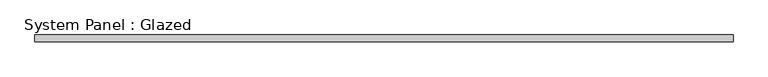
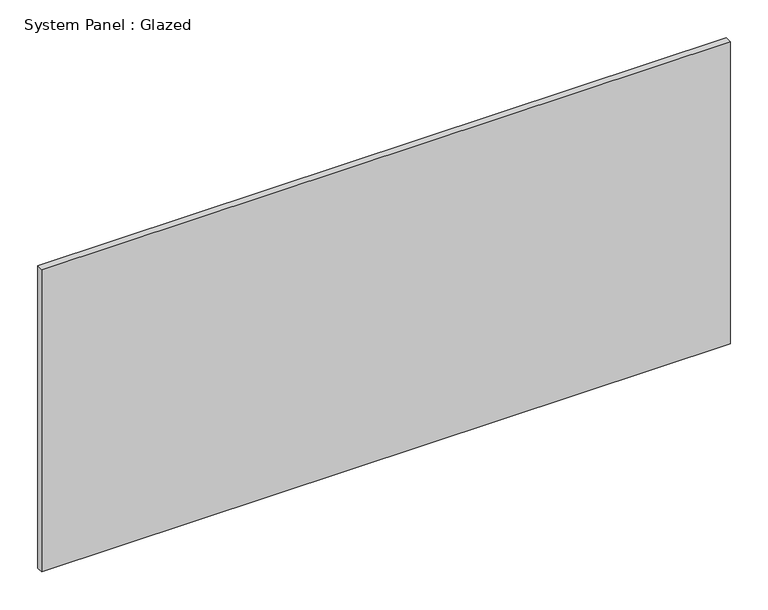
"""IFC4 building model written with IfcOpenShell, lengths in millimetres: plate geometry, System Panel : Glazed."""

from ifc_helpers import new_model, si_unit, origin, origin_with_axes, place, context, project, spatial, polyline, outline, extrude, source, transform, mapped, element, save


def system_panel_glazed_802ec0be(model_context):
    return source(origin(), model_context, "Body", "SweptSolid", [
        extrude(outline(polyline([(526.3436275, -5.0), (-526.3436275, -5.0), (-526.3436275, 5.0), (526.3436275, 5.0), (526.3436275, -5.0)])), origin_with_axes(), (0.0, 0.0, 1.0), 488.3333333),
    ])


if __name__ == "__main__":
    model = new_model("IFC4")
    model_context = context("Model", 3, world=origin())
    ifc_project = project(units=[si_unit("LENGTHUNIT", "METRE", prefix="MILLI")], contexts=[model_context])
    site = spatial("IfcSite", under=ifc_project)
    building = spatial("IfcBuilding", under=site)
    placement = place(None, origin())
    system_panel_glazed_shape = system_panel_glazed_802ec0be(model_context)
    element("IfcPlate", 1, ObjectType="System Panel : Glazed", at=placement, inside=building, context=model_context, shape_type="MappedRepresentation", body=[
        mapped(system_panel_glazed_shape, transform((0.0, 0.0, 0.0), x_axis=(1.0, 0.0, 0.0), y_axis=(0.0, 1.0, 0.0), z_axis=(0.0, 0.0, 1.0))),
    ])
    save(model, "model.ifc")
